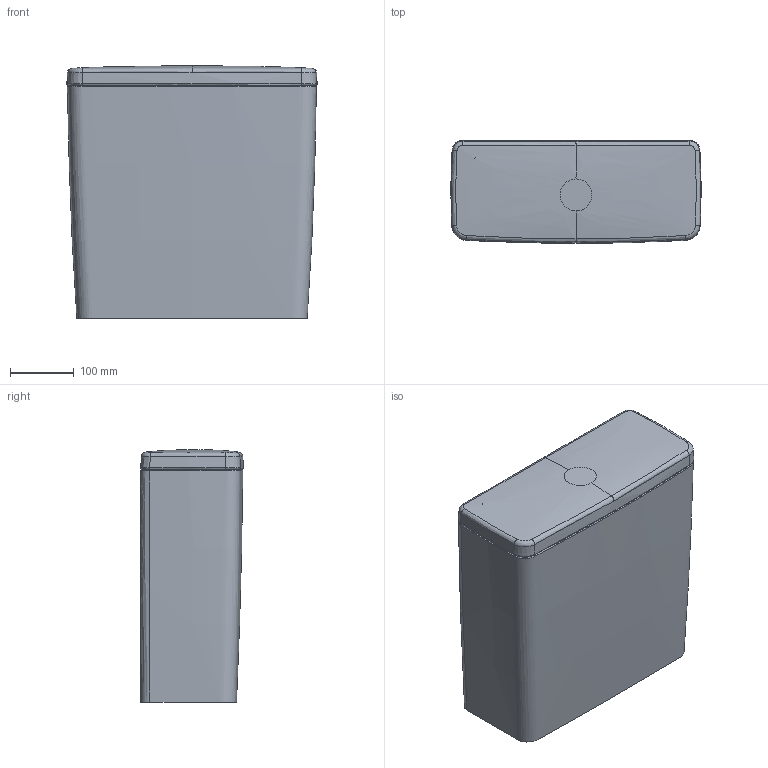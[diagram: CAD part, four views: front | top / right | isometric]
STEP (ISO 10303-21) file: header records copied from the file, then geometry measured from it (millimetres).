
FILE_DESCRIPTION(/* description */ (''),/* implementation_level */ '2;1');
FILE_NAME(/* name */ '827081BIM.stp',/* time_stamp */ '2020-07-07T11:00:00+02:00',/* author */ (''),/* organization */ (''),/* preprocessor_version */ 'ST-DEVELOPER v16',/* originating_system */ 'SIEMENS PLM Software NX 11.0',/* authorisation */ '');
FILE_SCHEMA (('AUTOMOTIVE_DESIGN { 1 0 10303 214 3 1 1 1 }'));
Length unit declared in the file: millimetre
Products named in the file (1): pors26FC66D63aam
Bounding box: 391.41 x 160.67 x 394.2 mm (x, y, z)
Volume: 22681047.3 mm3; surface area: 518996.8 mm2
Topology: 1 solids, 3 shells, 107 faces, 269 edges, 175 vertices
Faces by surface type: bspline 65, plane 26, cone 6, extrusion 5, cylinder 5
Full cylindrical faces by diameter (mm): 15 x1, 16.717 x1, 28 x2, 63 x1
Entity records: 10280 total; most frequent: CARTESIAN_POINT 8272, ORIENTED_EDGE 512, EDGE_CURVE 256, DIRECTION 199, B_SPLINE_CURVE_WITH_KNOTS 192, VERTEX_POINT 165, EDGE_LOOP 117, ADVANCED_FACE 107
